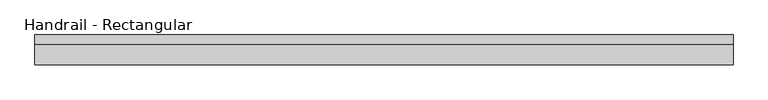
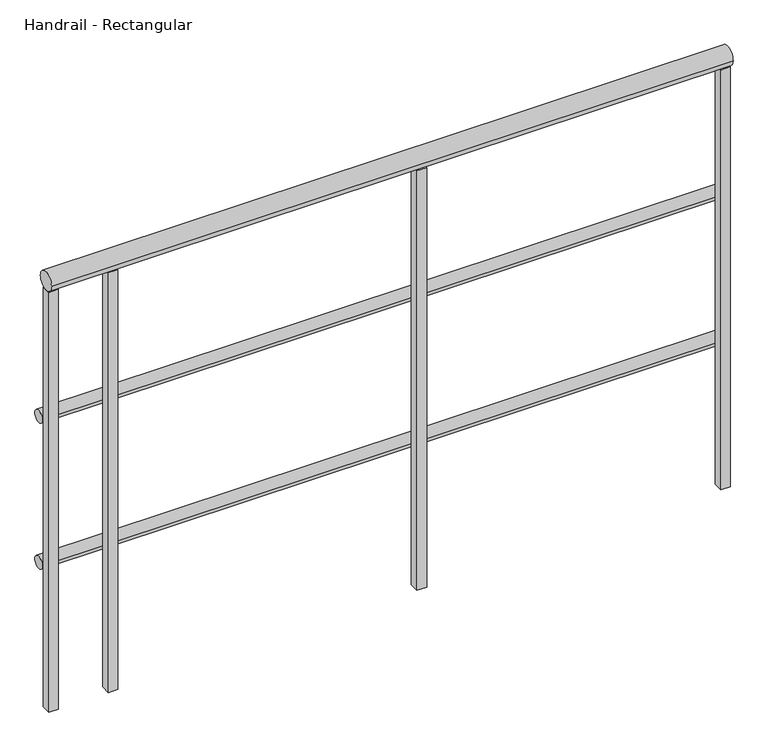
"""IFC4 building model written with IfcOpenShell, lengths in millimetres: railing geometry, Handrail - Rectangular."""

from ifc_helpers import new_model, si_unit, point, frame, frame_2d, origin, place, context, project, spatial, polyline, circle_curve, trimmed, segment, composite_curve, outline, extrude, source, transform, mapped, element, save


def handrail_rectangular_c8469efc(model_context):
    return source(origin(), model_context, "Body", "SweptSolid", [
        extrude(outline(composite_curve([segment(trimmed(circle_curve(frame_2d((11970.2316867, 9740.9)), 12.7), [point((11982.9316867, 9740.9))], [point((11957.5316867, 9740.9))], False, "CARTESIAN"), True, "CONTINUOUS"), segment(trimmed(circle_curve(frame_2d((11970.2316867, 9740.9)), 12.7), [point((11957.5316867, 9740.9))], [point((11982.9316867, 9740.9))], False, "CARTESIAN"), True, "CONTINUOUS")], self_intersect=False)), frame((-25550.7839563, 0.0, 0.0), z_axis=(1.0, 0.0, 0.0), x_axis=(0.0, 1.0, 0.0)), (0.0, 0.0, 1.0), 1346.2),
        extrude(outline(composite_curve([segment(trimmed(circle_curve(frame_2d((11970.2316867, 9436.1)), 12.7), [point((11982.9316867, 9436.1))], [point((11957.5316867, 9436.1))], False, "CARTESIAN"), True, "CONTINUOUS"), segment(trimmed(circle_curve(frame_2d((11970.2316867, 9436.1)), 12.7), [point((11957.5316867, 9436.1))], [point((11982.9316867, 9436.1))], False, "CARTESIAN"), True, "CONTINUOUS")], self_intersect=False)), frame((-25550.7839563, 0.0, 0.0), z_axis=(1.0, 0.0, 0.0), x_axis=(0.0, 1.0, 0.0)), (0.0, 0.0, 1.0), 1346.2),
        extrude(outline(composite_curve([segment(trimmed(circle_curve(frame_2d((11944.8316867, 10039.35)), 19.05), [point((11963.8816867, 10039.35))], [point((11925.7816867, 10039.35))], False, "CARTESIAN"), True, "CONTINUOUS"), segment(trimmed(circle_curve(frame_2d((11944.8316867, 10039.35)), 19.05), [point((11925.7816867, 10039.35))], [point((11963.8816867, 10039.35))], False, "CARTESIAN"), True, "CONTINUOUS")], self_intersect=False)), frame((-25550.7839563, 0.0, 0.0), z_axis=(1.0, 0.0, 0.0), x_axis=(0.0, 1.0, 0.0)), (0.0, 0.0, 1.0), 1346.2),
        extrude(outline(polyline([(-25414.2589563, 11935.3066867), (-25433.3089563, 11935.3066867), (-25433.3089563, 11954.3566867), (-25414.2589563, 11954.3566867), (-25414.2589563, 11935.3066867)])), frame((0.0, 0.0, 9144.0), z_axis=(0.0, 0.0, 1.0), x_axis=(1.0, 0.0, 0.0)), (0.0, 0.0, 1.0), 876.3),
        extrude(outline(polyline([(-24804.6589563, 11935.3066867), (-24823.7089563, 11935.3066867), (-24823.7089563, 11954.3566867), (-24804.6589563, 11954.3566867), (-24804.6589563, 11935.3066867)])), frame((0.0, 0.0, 9144.0), z_axis=(0.0, 0.0, 1.0), x_axis=(1.0, 0.0, 0.0)), (0.0, 0.0, 1.0), 876.3),
        extrude(outline(polyline([(-25531.7339563, 11935.3066867), (-25550.7839563, 11935.3066867), (-25550.7839563, 11954.3566867), (-25531.7339563, 11954.3566867), (-25531.7339563, 11935.3066867)])), frame((0.0, 0.0, 9144.0), z_axis=(0.0, 0.0, 1.0), x_axis=(1.0, 0.0, 0.0)), (0.0, 0.0, 1.0), 876.3),
        extrude(outline(polyline([(-24204.5839563, 11935.3066867), (-24223.6339563, 11935.3066867), (-24223.6339563, 11954.3566867), (-24204.5839563, 11954.3566867), (-24204.5839563, 11935.3066867)])), frame((0.0, 0.0, 9144.0), z_axis=(0.0, 0.0, 1.0), x_axis=(1.0, 0.0, 0.0)), (0.0, 0.0, 1.0), 876.3),
    ])


if __name__ == "__main__":
    model = new_model("IFC4")
    model_context = context("Model", 3, world=origin())
    ifc_project = project(units=[si_unit("LENGTHUNIT", "METRE", prefix="MILLI")], contexts=[model_context])
    site = spatial("IfcSite", under=ifc_project)
    building = spatial("IfcBuilding", under=site)
    placement = place(None, origin())
    handrail_rectangular_shape = handrail_rectangular_c8469efc(model_context)
    element("IfcRailing", 1, ObjectType="Handrail - Rectangular", at=placement, inside=building, context=model_context, shape_type="MappedRepresentation", body=[
        mapped(handrail_rectangular_shape, transform((0.0, 0.0, 0.0), x_axis=(1.0, 0.0, 0.0), y_axis=(0.0, 1.0, 0.0), z_axis=(0.0, 0.0, 1.0))),
    ])
    save(model, "model.ifc")
